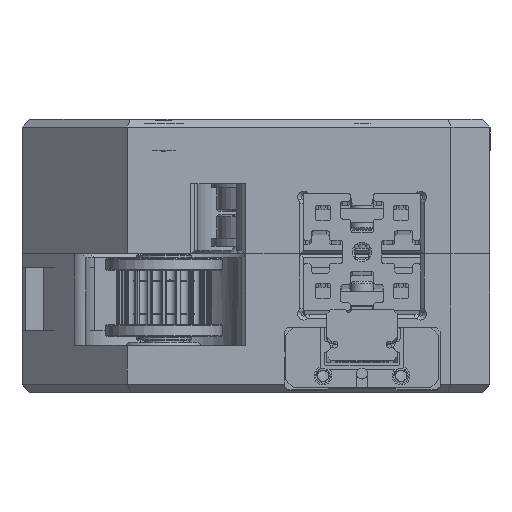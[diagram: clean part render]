
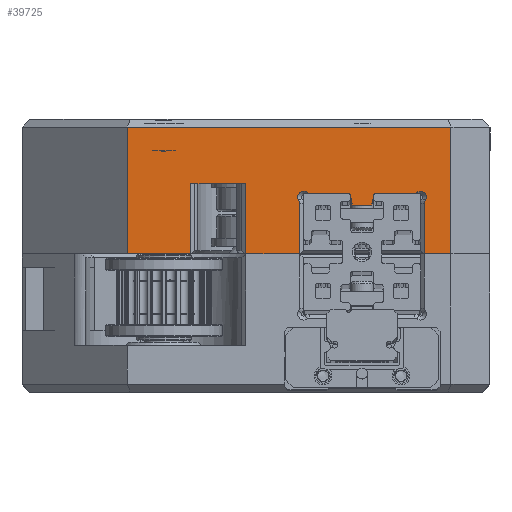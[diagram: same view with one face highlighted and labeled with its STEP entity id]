
A CAD part, top view. The second image highlights one B-rep face of the part: STEP entity #39725.
In plain terms, the highlighted planar face has unit normal (0, 0, 1).
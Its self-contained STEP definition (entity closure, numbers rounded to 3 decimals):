
#1598=PLANE('',#43594);
#4461=FACE_OUTER_BOUND('',#6774,.T.);
#6774=EDGE_LOOP('',(#35584,#35585,#35586,#35587,#35588,#35589,#35590,#35591,
#35592,#35593,#35594,#35595,#35596,#35597,#35598,#35599,#35600,#35601,#35602,
#35603,#35604,#35605));
#10441=LINE('',#123368,#13370);
#10447=LINE('',#123392,#13376);
#10467=LINE('',#123457,#13396);
#10475=LINE('',#123483,#13404);
#10476=LINE('',#123486,#13405);
#10477=LINE('',#123488,#13406);
#10478=LINE('',#123489,#13407);
#10479=LINE('',#123491,#13408);
#10480=LINE('',#123493,#13409);
#10481=LINE('',#123495,#13410);
#10482=LINE('',#123497,#13411);
#10483=LINE('',#123499,#13412);
#10484=LINE('',#123501,#13413);
#10485=LINE('',#123503,#13414);
#10486=LINE('',#123505,#13415);
#10487=LINE('',#123506,#13416);
#13370=VECTOR('',#52858,10.);
#13376=VECTOR('',#52884,10.);
#13396=VECTOR('',#52940,10.);
#13404=VECTOR('',#52968,10.);
#13405=VECTOR('',#52971,10.);
#13406=VECTOR('',#52972,10.);
#13407=VECTOR('',#52973,10.);
#13408=VECTOR('',#52974,10.);
#13409=VECTOR('',#52975,10.);
#13410=VECTOR('',#52976,10.);
#13411=VECTOR('',#52977,10.);
#13412=VECTOR('',#52978,10.);
#13413=VECTOR('',#52979,10.);
#13414=VECTOR('',#52980,10.);
#13415=VECTOR('',#52981,10.);
#13416=VECTOR('',#52982,10.);
#15644=CIRCLE('',#43557,0.5);
#15646=CIRCLE('',#43560,0.75);
#15648=CIRCLE('',#43563,0.5);
#15656=CIRCLE('',#43585,0.5);
#15658=CIRCLE('',#43588,0.75);
#15660=CIRCLE('',#43591,0.5);
#19197=VERTEX_POINT('',#123365);
#19198=VERTEX_POINT('',#123367);
#19200=VERTEX_POINT('',#123372);
#19202=VERTEX_POINT('',#123378);
#19204=VERTEX_POINT('',#123384);
#19206=VERTEX_POINT('',#123390);
#19232=VERTEX_POINT('',#123454);
#19233=VERTEX_POINT('',#123456);
#19236=VERTEX_POINT('',#123464);
#19238=VERTEX_POINT('',#123470);
#19240=VERTEX_POINT('',#123476);
#19241=VERTEX_POINT('',#123481);
#19242=VERTEX_POINT('',#123485);
#19243=VERTEX_POINT('',#123487);
#19244=VERTEX_POINT('',#123490);
#19245=VERTEX_POINT('',#123492);
#19246=VERTEX_POINT('',#123494);
#19247=VERTEX_POINT('',#123496);
#19248=VERTEX_POINT('',#123498);
#19249=VERTEX_POINT('',#123500);
#19250=VERTEX_POINT('',#123502);
#19251=VERTEX_POINT('',#123504);
#24725=EDGE_CURVE('',#19197,#19198,#10441,.T.);
#24728=EDGE_CURVE('',#19200,#19197,#15644,.T.);
#24731=EDGE_CURVE('',#19202,#19200,#15646,.T.);
#24734=EDGE_CURVE('',#19204,#19202,#15648,.T.);
#24737=EDGE_CURVE('',#19206,#19204,#10447,.T.);
#24769=EDGE_CURVE('',#19232,#19233,#10467,.T.);
#24773=EDGE_CURVE('',#19233,#19236,#15656,.T.);
#24776=EDGE_CURVE('',#19236,#19238,#15658,.T.);
#24779=EDGE_CURVE('',#19238,#19240,#15660,.T.);
#24783=EDGE_CURVE('',#19240,#19241,#10475,.T.);
#24784=EDGE_CURVE('',#19206,#19242,#10476,.T.);
#24785=EDGE_CURVE('',#19242,#19243,#10477,.T.);
#24786=EDGE_CURVE('',#19243,#19241,#10478,.T.);
#24787=EDGE_CURVE('',#19232,#19244,#10479,.T.);
#24788=EDGE_CURVE('',#19244,#19245,#10480,.T.);
#24789=EDGE_CURVE('',#19246,#19245,#10481,.T.);
#24790=EDGE_CURVE('',#19246,#19247,#10482,.T.);
#24791=EDGE_CURVE('',#19247,#19248,#10483,.T.);
#24792=EDGE_CURVE('',#19249,#19248,#10484,.T.);
#24793=EDGE_CURVE('',#19249,#19250,#10485,.T.);
#24794=EDGE_CURVE('',#19251,#19250,#10486,.T.);
#24795=EDGE_CURVE('',#19251,#19198,#10487,.T.);
#35584=ORIENTED_EDGE('',*,*,#24784,.T.);
#35585=ORIENTED_EDGE('',*,*,#24785,.T.);
#35586=ORIENTED_EDGE('',*,*,#24786,.T.);
#35587=ORIENTED_EDGE('',*,*,#24783,.F.);
#35588=ORIENTED_EDGE('',*,*,#24779,.F.);
#35589=ORIENTED_EDGE('',*,*,#24776,.F.);
#35590=ORIENTED_EDGE('',*,*,#24773,.F.);
#35591=ORIENTED_EDGE('',*,*,#24769,.F.);
#35592=ORIENTED_EDGE('',*,*,#24787,.T.);
#35593=ORIENTED_EDGE('',*,*,#24788,.T.);
#35594=ORIENTED_EDGE('',*,*,#24789,.F.);
#35595=ORIENTED_EDGE('',*,*,#24790,.T.);
#35596=ORIENTED_EDGE('',*,*,#24791,.T.);
#35597=ORIENTED_EDGE('',*,*,#24792,.F.);
#35598=ORIENTED_EDGE('',*,*,#24793,.T.);
#35599=ORIENTED_EDGE('',*,*,#24794,.F.);
#35600=ORIENTED_EDGE('',*,*,#24795,.T.);
#35601=ORIENTED_EDGE('',*,*,#24725,.F.);
#35602=ORIENTED_EDGE('',*,*,#24728,.F.);
#35603=ORIENTED_EDGE('',*,*,#24731,.F.);
#35604=ORIENTED_EDGE('',*,*,#24734,.F.);
#35605=ORIENTED_EDGE('',*,*,#24737,.F.);
#39725=ADVANCED_FACE('',(#4461),#1598,.T.);
#43557=AXIS2_PLACEMENT_3D('',#123374,#52863,#52864);
#43560=AXIS2_PLACEMENT_3D('',#123380,#52870,#52871);
#43563=AXIS2_PLACEMENT_3D('',#123386,#52877,#52878);
#43585=AXIS2_PLACEMENT_3D('',#123465,#52946,#52947);
#43588=AXIS2_PLACEMENT_3D('',#123471,#52953,#52954);
#43591=AXIS2_PLACEMENT_3D('',#123477,#52960,#52961);
#43594=AXIS2_PLACEMENT_3D('',#123484,#52969,#52970);
#52858=DIRECTION('',(0.,-1.,0.));
#52863=DIRECTION('center_axis',(0.,0.,
-1.));
#52864=DIRECTION('ref_axis',(0.949,0.316,0.));
#52870=DIRECTION('center_axis',(0.,0.,
1.));
#52871=DIRECTION('ref_axis',(-1.,0.,0.));
#52877=DIRECTION('center_axis',(0.,0.,
-1.));
#52878=DIRECTION('ref_axis',(-0.316,-0.949,0.));
#52884=DIRECTION('',(-1.,0.,0.));
#52940=DIRECTION('',(0.,1.,0.));
#52946=DIRECTION('center_axis',(0.,0.,
-1.));
#52947=DIRECTION('ref_axis',(-0.949,0.316,0.));
#52953=DIRECTION('center_axis',(0.,0.,
1.));
#52954=DIRECTION('ref_axis',(1.,0.,0.));
#52960=DIRECTION('center_axis',(0.,0.,
-1.));
#52961=DIRECTION('ref_axis',(0.316,-0.949,0.));
#52968=DIRECTION('',(-1.,0.,0.));
#52969=DIRECTION('center_axis',(0.,0.,
1.));
#52970=DIRECTION('ref_axis',(1.,0.,0.));
#52971=DIRECTION('',(0.196,-0.981,0.));
#52972=DIRECTION('',(1.,0.,0.));
#52973=DIRECTION('',(0.196,0.981,0.));
#52974=DIRECTION('',(1.,0.,0.));
#52975=DIRECTION('',(0.,1.,0.));
#52976=DIRECTION('',(1.,0.,0.));
#52977=DIRECTION('',(0.,-1.,0.));
#52978=DIRECTION('',(1.,0.,0.));
#52979=DIRECTION('',(0.,-1.,0.));
#52980=DIRECTION('',(1.,0.,0.));
#52981=DIRECTION('',(0.,1.,0.));
#52982=DIRECTION('',(1.,0.,0.));
#123365=CARTESIAN_POINT('',(-0.4,-9.75,35.));
#123367=CARTESIAN_POINT('',(-0.4,-16.25,35.));
#123368=CARTESIAN_POINT('',(-0.4,-20.25,35.));
#123372=CARTESIAN_POINT('',(-0.5,-9.45,35.));
#123374=CARTESIAN_POINT('Origin',(-0.9,-9.75,
35.));
#123378=CARTESIAN_POINT('',(0.55,-8.4,35.));
#123380=CARTESIAN_POINT('Origin',(0.1,-9.,35.));
#123384=CARTESIAN_POINT('',(0.85,-8.5,35.));
#123386=CARTESIAN_POINT('Origin',(0.85,-8.,35.));
#123390=CARTESIAN_POINT('',(6.05,-8.5,35.));
#123392=CARTESIAN_POINT('',(0.775,-8.5,35.));
#123454=CARTESIAN_POINT('',(15.6,-16.25,35.));
#123456=CARTESIAN_POINT('',(15.6,-9.75,35.));
#123457=CARTESIAN_POINT('',(15.6,-16.375,35.));
#123464=CARTESIAN_POINT('',(15.7,-9.45,35.));
#123465=CARTESIAN_POINT('Origin',(16.1,-9.75,35.));
#123470=CARTESIAN_POINT('',(14.65,-8.4,35.));
#123471=CARTESIAN_POINT('Origin',(15.1,-9.,35.));
#123476=CARTESIAN_POINT('',(14.35,-8.5,35.));
#123477=CARTESIAN_POINT('Origin',(14.35,-8.,35.));
#123481=CARTESIAN_POINT('',(9.15,-8.5,35.));
#123483=CARTESIAN_POINT('',(0.775,-8.5,35.));
#123484=CARTESIAN_POINT('Origin',(-6.,-16.5,35.));
#123485=CARTESIAN_POINT('',(6.35,-10.,35.));
#123486=CARTESIAN_POINT('',(6.688,-11.688,35.));
#123487=CARTESIAN_POINT('',(8.85,-10.,35.));
#123488=CARTESIAN_POINT('',(0.8,-10.,35.));
#123489=CARTESIAN_POINT('',(7.989,-14.303,35.));
#123490=CARTESIAN_POINT('',(19.,-16.25,35.));
#123491=CARTESIAN_POINT('',(6.775,-16.25,35.));
#123492=CARTESIAN_POINT('',(19.,0.,35.));
#123493=CARTESIAN_POINT('',(19.,-14.625,35.));
#123494=CARTESIAN_POINT('',(-22.515,0.,35.));
#123495=CARTESIAN_POINT('',(0.775,0.,35.));
#123496=CARTESIAN_POINT('',(-22.515,-16.25,35.));
#123497=CARTESIAN_POINT('',(-22.515,-16.5,35.));
#123498=CARTESIAN_POINT('',(-14.344,-16.25,35.));
#123499=CARTESIAN_POINT('',(6.775,-16.25,35.));
#123500=CARTESIAN_POINT('',(-14.344,-7.25,35.));
#123501=CARTESIAN_POINT('',(-14.344,-11.875,35.));
#123502=CARTESIAN_POINT('',(-7.32,-7.25,35.));
#123503=CARTESIAN_POINT('',(-6.,-7.25,35.));
#123504=CARTESIAN_POINT('',(-7.32,-16.25,35.));
#123505=CARTESIAN_POINT('',(-7.32,-16.625,35.));
#123506=CARTESIAN_POINT('',(-7.33,-16.25,35.));
